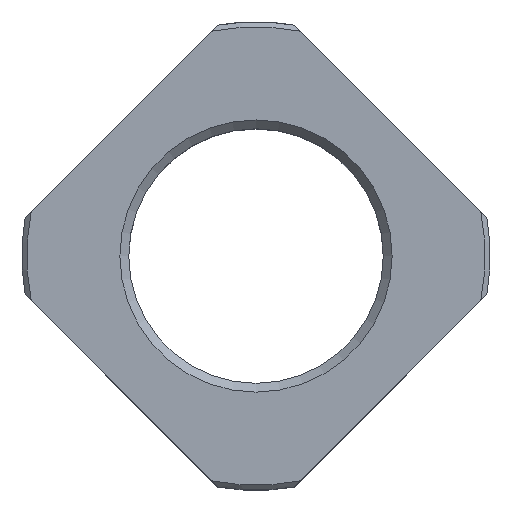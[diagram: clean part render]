
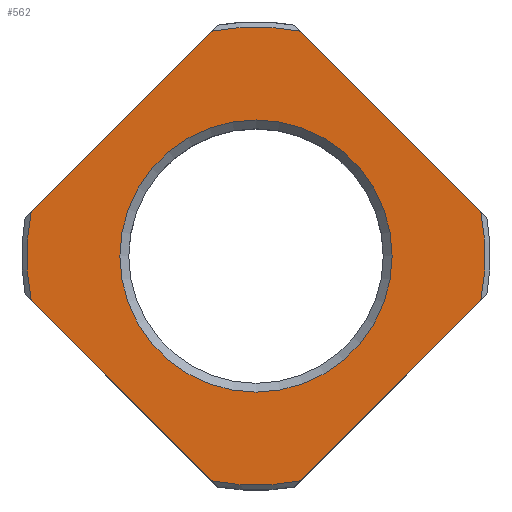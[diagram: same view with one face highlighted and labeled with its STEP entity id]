
A CAD part, top view. The second image highlights one B-rep face of the part: STEP entity #562.
In plain terms, the highlighted planar face has unit normal (0, 0, 1).
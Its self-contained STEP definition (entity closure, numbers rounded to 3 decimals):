
#32=PLANE('',#617);
#50=LINE('',#878,#84);
#51=LINE('',#882,#85);
#52=LINE('',#886,#86);
#53=LINE('',#890,#87);
#84=VECTOR('',#697,1000.);
#85=VECTOR('',#700,1000.);
#86=VECTOR('',#703,1000.);
#87=VECTOR('',#706,1000.);
#146=ORIENTED_EDGE('',*,*,#300,.F.);
#147=ORIENTED_EDGE('',*,*,#301,.T.);
#148=ORIENTED_EDGE('',*,*,#302,.F.);
#149=ORIENTED_EDGE('',*,*,#303,.T.);
#150=ORIENTED_EDGE('',*,*,#304,.F.);
#151=ORIENTED_EDGE('',*,*,#305,.T.);
#152=ORIENTED_EDGE('',*,*,#306,.F.);
#153=ORIENTED_EDGE('',*,*,#307,.T.);
#154=ORIENTED_EDGE('',*,*,#308,.T.);
#300=EDGE_CURVE('',#378,#379,#430,.T.);
#301=EDGE_CURVE('',#378,#380,#50,.T.);
#302=EDGE_CURVE('',#381,#380,#431,.T.);
#303=EDGE_CURVE('',#381,#382,#51,.T.);
#304=EDGE_CURVE('',#383,#382,#432,.T.);
#305=EDGE_CURVE('',#383,#384,#52,.T.);
#306=EDGE_CURVE('',#385,#384,#433,.T.);
#307=EDGE_CURVE('',#385,#379,#53,.T.);
#308=EDGE_CURVE('',#386,#386,#434,.T.);
#378=VERTEX_POINT('',#876);
#379=VERTEX_POINT('',#877);
#380=VERTEX_POINT('',#879);
#381=VERTEX_POINT('',#881);
#382=VERTEX_POINT('',#883);
#383=VERTEX_POINT('',#885);
#384=VERTEX_POINT('',#887);
#385=VERTEX_POINT('',#889);
#386=VERTEX_POINT('',#892);
#430=CIRCLE('',#618,21.05);
#431=CIRCLE('',#619,21.05);
#432=CIRCLE('',#620,21.05);
#433=CIRCLE('',#621,21.05);
#434=CIRCLE('',#622,12.5);
#459=EDGE_LOOP('',(#146,#147,#148,#149,#150,#151,#152,#153));
#460=EDGE_LOOP('',(#154));
#509=FACE_BOUND('',#459,.T.);
#510=FACE_BOUND('',#460,.T.);
#562=ADVANCED_FACE('',(#509,#510),#32,.F.);
#617=AXIS2_PLACEMENT_3D('',#874,#693,#694);
#618=AXIS2_PLACEMENT_3D('',#875,#695,#696);
#619=AXIS2_PLACEMENT_3D('',#880,#698,#699);
#620=AXIS2_PLACEMENT_3D('',#884,#701,#702);
#621=AXIS2_PLACEMENT_3D('',#888,#704,#705);
#622=AXIS2_PLACEMENT_3D('',#891,#707,#708);
#693=DIRECTION('',(0.,0.,-1.));
#694=DIRECTION('',(-1.,0.,0.));
#695=DIRECTION('',(0.,0.,-1.));
#696=DIRECTION('',(-1.,0.,0.));
#697=DIRECTION('',(-0.707,-0.707,0.));
#698=DIRECTION('',(0.,0.,-1.));
#699=DIRECTION('',(-1.,0.,0.));
#700=DIRECTION('',(0.707,-0.707,0.));
#701=DIRECTION('',(0.,0.,-1.));
#702=DIRECTION('',(-1.,0.,0.));
#703=DIRECTION('',(0.707,0.707,0.));
#704=DIRECTION('',(0.,0.,-1.));
#705=DIRECTION('',(-1.,0.,0.));
#706=DIRECTION('',(-0.707,0.707,0.));
#707=DIRECTION('',(0.,0.,-1.));
#708=DIRECTION('',(-1.,0.,0.));
#874=CARTESIAN_POINT('',(0.,0.,15.));
#875=CARTESIAN_POINT('',(0.,0.,15.));
#876=CARTESIAN_POINT('',(-4.102,20.646,15.));
#877=CARTESIAN_POINT('',(4.102,20.646,15.));
#878=CARTESIAN_POINT('',(0.,24.749,15.));
#879=CARTESIAN_POINT('',(-20.646,4.102,15.));
#880=CARTESIAN_POINT('',(0.,0.,15.));
#881=CARTESIAN_POINT('',(-20.646,-4.102,15.));
#882=CARTESIAN_POINT('',(-24.749,0.,15.));
#883=CARTESIAN_POINT('',(-4.102,-20.646,15.));
#884=CARTESIAN_POINT('',(0.,0.,15.));
#885=CARTESIAN_POINT('',(4.102,-20.646,15.));
#886=CARTESIAN_POINT('',(0.,-24.749,15.));
#887=CARTESIAN_POINT('',(20.646,-4.102,15.));
#888=CARTESIAN_POINT('',(0.,0.,15.));
#889=CARTESIAN_POINT('',(20.646,4.102,15.));
#890=CARTESIAN_POINT('',(24.749,0.,15.));
#891=CARTESIAN_POINT('',(0.,0.,15.));
#892=CARTESIAN_POINT('',(-12.5,0.,15.));
